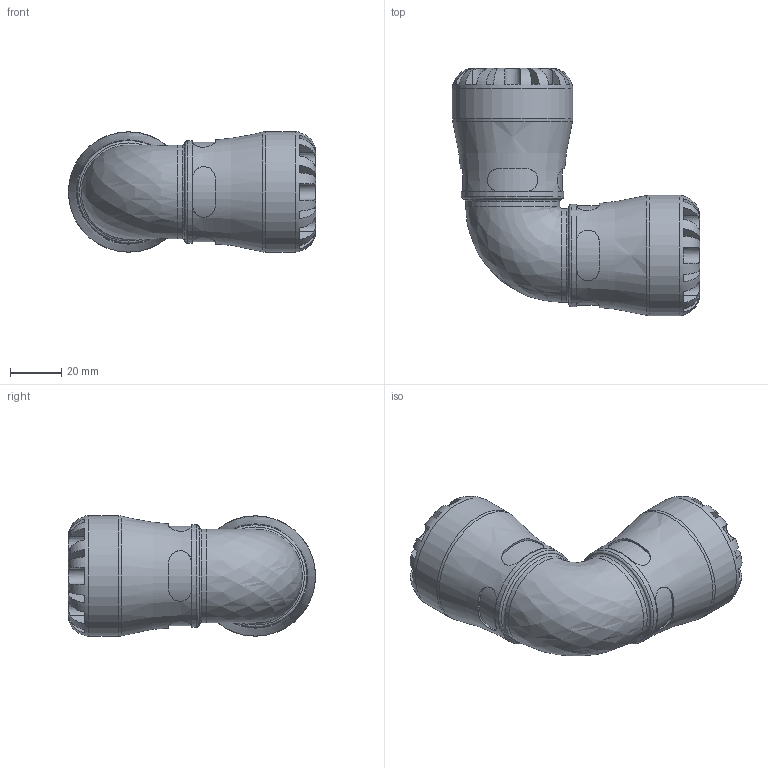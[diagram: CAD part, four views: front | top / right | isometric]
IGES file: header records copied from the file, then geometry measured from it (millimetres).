
Global section: file name: 100500025_190400025.ipt; native system: Autodesk Inventor 2015; preprocessor: unknown; author: KIM; date: 20170122.114429; units: millimetre
Bounding box: 96.5 x 96.5 x 47 mm (x, y, z)
Volume: 123577.7 mm3; surface area: 33060.5 mm2
Topology: 1 solids, 1 shells, 196 faces, 513 edges, 327 vertices
Faces by surface type: plane 116, revolution 50, cylinder 30
Full cylindrical faces by diameter (mm): 36.66 x2, 39.95 x2, 47 x2
